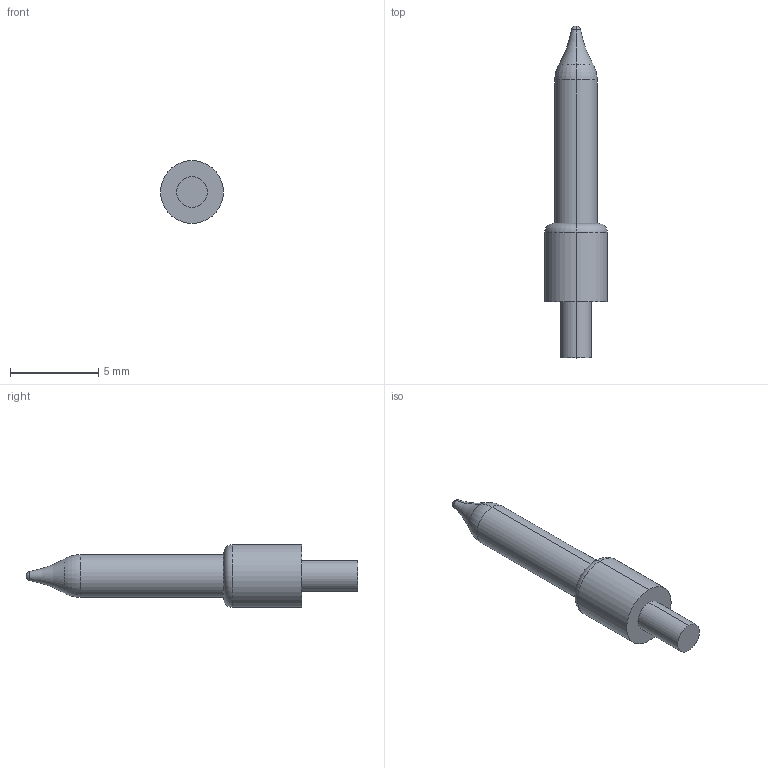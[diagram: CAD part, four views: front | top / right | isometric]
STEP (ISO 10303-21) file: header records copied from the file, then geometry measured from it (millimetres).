
FILE_DESCRIPTION (( 'STEP AP203' ), '1' );
FILE_NAME ('japanese-gun-001-front-sight.STEP', '2013-11-16T22:57:09', ( 'Kirk' ), ( 'Microsoft' ), 'SwSTEP 2.0', 'SolidWorks 2012', '' );
FILE_SCHEMA (( 'CONFIG_CONTROL_DESIGN' ));
Length unit declared in the file: inch
Products named in the file (1): japanese-gun-001-front-sight
Bounding box: 3.56 x 18.81 x 3.56 mm (x, y, z)
Volume: 93.9 mm3; surface area: 155.6 mm2
Topology: 1 solids, 1 shells, 17 faces, 32 edges, 19 vertices
Faces by surface type: torus 6, cylinder 6, plane 3, sphere 2
Entity records: 515 total; most frequent: DIRECTION 94, CARTESIAN_POINT 69, ORIENTED_EDGE 64, AXIS2_PLACEMENT_3D 44, EDGE_CURVE 32, CIRCLE 26, EDGE_LOOP 19, VERTEX_POINT 19
